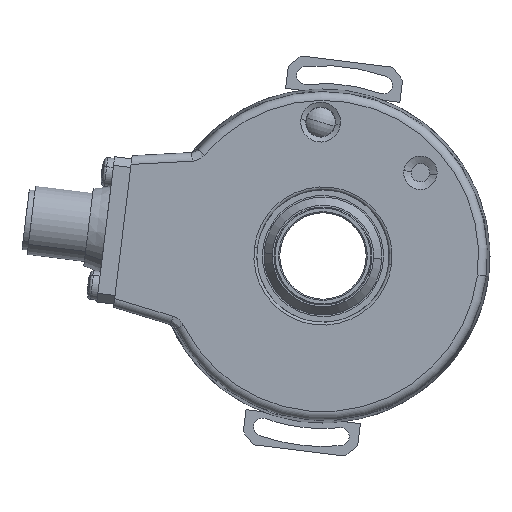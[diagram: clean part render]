
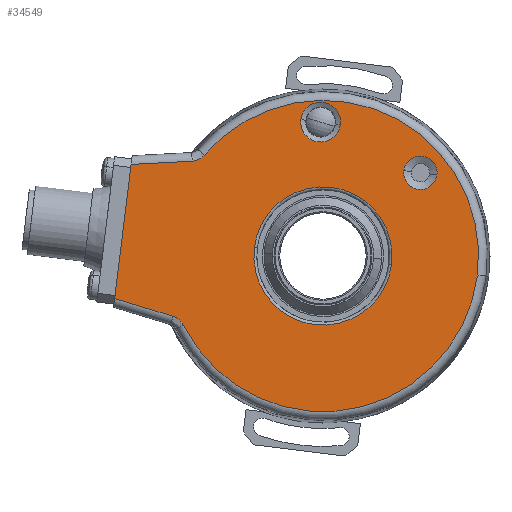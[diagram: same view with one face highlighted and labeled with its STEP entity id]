
A CAD part, left-side view. The second image highlights one B-rep face of the part: STEP entity #34549.
In plain terms, the highlighted planar face has unit normal (-1, 0, 0).
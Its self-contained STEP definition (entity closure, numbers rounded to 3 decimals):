
#198 = EDGE_CURVE ( 'NONE', #18186, #18187, #10828, .T. ) ;
#235 = EDGE_CURVE ( 'NONE', #18182, #18183, #10876, .T. ) ;
#280 = EDGE_CURVE ( 'NONE', #2330, #2331, #10946, .T. ) ;
#301 = EDGE_CURVE ( 'NONE', #2318, #2320, #10978, .T. ) ;
#1222 = CARTESIAN_POINT ( 'NONE',  ( -30.5, 36.168, -7.374 ) ) ;
#1225 = CARTESIAN_POINT ( 'NONE',  ( -30.5, 33.31, 15.905 ) ) ;
#1236 = CARTESIAN_POINT ( 'NONE',  ( -30.5, -11.911, -1.462 ) ) ;
#1238 = CARTESIAN_POINT ( 'NONE',  ( -30.5, 11.911, 1.462 ) ) ;
#1245 = CARTESIAN_POINT ( 'NONE',  ( -30.5, 20.579, 17.512 ) ) ;
#1247 = CARTESIAN_POINT ( 'NONE',  ( -30.5, -26.821, -3.293 ) ) ;
#1380 = CARTESIAN_POINT ( 'NONE',  ( -30.5, 24.205, -12.014 ) ) ;
#1384 = CARTESIAN_POINT ( 'NONE',  ( -30.5, 26.015, -10.478 ) ) ;
#1388 = CARTESIAN_POINT ( 'NONE',  ( -30.5, 22.708, 16.461 ) ) ;
#1922 = DIRECTION ( 'NONE',  ( 0., -0.993, -0.122 ) ) ;
#1923 = DIRECTION ( 'NONE',  ( -1., 0., 0. ) ) ;
#1925 = CARTESIAN_POINT ( 'NONE',  ( -30.5, 0., 0. ) ) ;
#1978 = CARTESIAN_POINT ( 'NONE',  ( -30.5, 0., 0. ) ) ;
#1979 = DIRECTION ( 'NONE',  ( 1., 0., 0. ) ) ;
#1980 = DIRECTION ( 'NONE',  ( 0., -0.993, -0.122 ) ) ;
#2315 = ORIENTED_EDGE ( 'NONE', *, *, #301, .T. ) ;
#2318 = VERTEX_POINT ( 'NONE', #1247 ) ;
#2320 = VERTEX_POINT ( 'NONE', #1245 ) ;
#2330 = VERTEX_POINT ( 'NONE', #1236 ) ;
#2331 = VERTEX_POINT ( 'NONE', #1238 ) ;
#2353 = VERTEX_POINT ( 'NONE', #1380 ) ;
#2363 = VERTEX_POINT ( 'NONE', #1388 ) ;
#2371 = VERTEX_POINT ( 'NONE', #1222 ) ;
#2372 = VERTEX_POINT ( 'NONE', #1225 ) ;
#2374 = VERTEX_POINT ( 'NONE', #1384 ) ;
#5428 = B_SPLINE_CURVE_WITH_KNOTS ( 'NONE', 3,
 ( #31787, #31796, #31803, #31804, #31805, #31806, #31807, #31808, #31809, #31810 ),
 .UNSPECIFIED., .F., .F.,
 ( 4, 2, 2, 2, 4 ),
 ( 0., 0.001, 0.001, 0.002, 0.002 ),
 .UNSPECIFIED. ) ;
#5430 = B_SPLINE_CURVE_WITH_KNOTS ( 'NONE', 3,
 ( #31828, #31829, #31837, #31838, #31839, #31840, #31841, #31842, #31843, #31844 ),
 .UNSPECIFIED., .F., .F.,
 ( 4, 2, 2, 2, 4 ),
 ( 0., 0.001, 0.001, 0.002, 0.002 ),
 .UNSPECIFIED. ) ;
#5897 = CIRCLE ( 'NONE', #25609, 2.899 ) ;
#6264 = LINE ( 'NONE', #31678, #6266 ) ;
#6266 = VECTOR ( 'NONE', #31679, 1000. ) ;
#6304 = CIRCLE ( 'NONE', #25778, 3.466 ) ;
#6310 = LINE ( 'NONE', #31815, #6314 ) ;
#6313 = CIRCLE ( 'NONE', #25782, 12. ) ;
#6314 = VECTOR ( 'NONE', #31816, 1000. ) ;
#6315 = LINE ( 'NONE', #31812, #6317 ) ;
#6317 = VECTOR ( 'NONE', #31811, 1000. ) ;
#6319 = CIRCLE ( 'NONE', #25785, 27.022 ) ;
#6617 = FACE_BOUND ( 'NONE', #21229, .T. ) ;
#6620 = FACE_OUTER_BOUND ( 'NONE', #21232, .T. ) ;
#6621 = FACE_BOUND ( 'NONE', #21230, .T. ) ;
#6623 = FACE_BOUND ( 'NONE', #21228, .T. ) ;
#10828 = CIRCLE ( 'NONE', #28459, 3.466 ) ;
#10876 = CIRCLE ( 'NONE', #28483, 2.899 ) ;
#10946 = CIRCLE ( 'NONE', #28501, 12. ) ;
#10978 = CIRCLE ( 'NONE', #28511, 27.022 ) ;
#13576 = ORIENTED_EDGE ( 'NONE', *, *, #28301, .T. ) ;
#13600 = ORIENTED_EDGE ( 'NONE', *, *, #280, .T. ) ;
#13604 = ORIENTED_EDGE ( 'NONE', *, *, #28311, .T. ) ;
#13616 = ORIENTED_EDGE ( 'NONE', *, *, #28318, .F. ) ;
#13624 = ORIENTED_EDGE ( 'NONE', *, *, #28269, .T. ) ;
#13629 = ORIENTED_EDGE ( 'NONE', *, *, #28315, .T. ) ;
#13635 = ORIENTED_EDGE ( 'NONE', *, *, #235, .T. ) ;
#13642 = ORIENTED_EDGE ( 'NONE', *, *, #27947, .T. ) ;
#13693 = ORIENTED_EDGE ( 'NONE', *, *, #28308, .F. ) ;
#13704 = ORIENTED_EDGE ( 'NONE', *, *, #198, .T. ) ;
#13708 = ORIENTED_EDGE ( 'NONE', *, *, #28310, .F. ) ;
#13721 = ORIENTED_EDGE ( 'NONE', *, *, #28312, .T. ) ;
#13960 = DIRECTION ( 'NONE',  ( 0., -0.993, -0.122 ) ) ;
#13962 = DIRECTION ( 'NONE',  ( 1., 0., 0. ) ) ;
#13964 = CARTESIAN_POINT ( 'NONE',  ( -30.5, -16.919, 14.45 ) ) ;
#14007 = DIRECTION ( 'NONE',  ( 0., -0.993, -0.122 ) ) ;
#14008 = DIRECTION ( 'NONE',  ( 1., 0., 0. ) ) ;
#14300 = CARTESIAN_POINT ( 'NONE',  ( -30.5, 0.406, 23.246 ) ) ;
#18182 = VERTEX_POINT ( 'NONE', #20317 ) ;
#18183 = VERTEX_POINT ( 'NONE', #20318 ) ;
#18186 = VERTEX_POINT ( 'NONE', #20321 ) ;
#18187 = VERTEX_POINT ( 'NONE', #20322 ) ;
#20317 = CARTESIAN_POINT ( 'NONE',  ( -30.5, -14.042, 14.804 ) ) ;
#20318 = CARTESIAN_POINT ( 'NONE',  ( -30.5, -19.796, 14.097 ) ) ;
#20321 = CARTESIAN_POINT ( 'NONE',  ( -30.5, 3.846, 23.669 ) ) ;
#20322 = CARTESIAN_POINT ( 'NONE',  ( -30.5, -3.034, 22.824 ) ) ;
#21228 = EDGE_LOOP ( 'NONE', ( #13704, #13576 ) ) ;
#21229 = EDGE_LOOP ( 'NONE', ( #13635, #13642 ) ) ;
#21230 = EDGE_LOOP ( 'NONE', ( #13600, #13604 ) ) ;
#21232 = EDGE_LOOP ( 'NONE', ( #13616, #13624, #13708, #13721, #13693, #13629, #2315 ) ) ;
#25609 = AXIS2_PLACEMENT_3D ( 'NONE', #29879, #29880, #29881 ) ;
#25778 = AXIS2_PLACEMENT_3D ( 'NONE', #31779, #31780, #31781 ) ;
#25782 = AXIS2_PLACEMENT_3D ( 'NONE', #31817, #31818, #31819 ) ;
#25785 = AXIS2_PLACEMENT_3D ( 'NONE', #31830, #31831, #31832 ) ;
#25939 = AXIS2_PLACEMENT_3D ( 'NONE', #32817, #32814, #32820 ) ;
#27947 = EDGE_CURVE ( 'NONE', #18183, #18182, #5897, .T. ) ;
#28269 = EDGE_CURVE ( 'NONE', #2363, #2372, #6264, .T. ) ;
#28301 = EDGE_CURVE ( 'NONE', #18187, #18186, #6304, .T. ) ;
#28308 = EDGE_CURVE ( 'NONE', #2353, #2374, #5428, .T. ) ;
#28310 = EDGE_CURVE ( 'NONE', #2371, #2372, #6310, .T. ) ;
#28311 = EDGE_CURVE ( 'NONE', #2331, #2330, #6313, .T. ) ;
#28312 = EDGE_CURVE ( 'NONE', #2371, #2374, #6315, .T. ) ;
#28315 = EDGE_CURVE ( 'NONE', #2353, #2318, #6319, .T. ) ;
#28318 = EDGE_CURVE ( 'NONE', #2363, #2320, #5430, .T. ) ;
#28459 = AXIS2_PLACEMENT_3D ( 'NONE', #14300, #14008, #14007 ) ;
#28483 = AXIS2_PLACEMENT_3D ( 'NONE', #13964, #13962, #13960 ) ;
#28501 = AXIS2_PLACEMENT_3D ( 'NONE', #1978, #1979, #1980 ) ;
#28511 = AXIS2_PLACEMENT_3D ( 'NONE', #1925, #1923, #1922 ) ;
#29879 = CARTESIAN_POINT ( 'NONE',  ( -30.5, -16.919, 14.45 ) ) ;
#29880 = DIRECTION ( 'NONE',  ( 1., 0., 0. ) ) ;
#29881 = DIRECTION ( 'NONE',  ( 0., -0.993, -0.122 ) ) ;
#31678 = CARTESIAN_POINT ( 'NONE',  ( -30.5, 33.046, 15.919 ) ) ;
#31679 = DIRECTION ( 'NONE',  ( 0., 0.999, -0.052 ) ) ;
#31779 = CARTESIAN_POINT ( 'NONE',  ( -30.5, 0.406, 23.246 ) ) ;
#31780 = DIRECTION ( 'NONE',  ( 1., 0., 0. ) ) ;
#31781 = DIRECTION ( 'NONE',  ( 0., -0.993, -0.122 ) ) ;
#31787 = CARTESIAN_POINT ( 'NONE',  ( -30.5, 24.205, -12.014 ) ) ;
#31796 = CARTESIAN_POINT ( 'NONE',  ( -30.5, 24.296, -11.83 ) ) ;
#31803 = CARTESIAN_POINT ( 'NONE',  ( -30.5, 24.406, -11.656 ) ) ;
#31804 = CARTESIAN_POINT ( 'NONE',  ( -30.5, 24.657, -11.336 ) ) ;
#31805 = CARTESIAN_POINT ( 'NONE',  ( -30.5, 24.797, -11.19 ) ) ;
#31806 = CARTESIAN_POINT ( 'NONE',  ( -30.5, 25.107, -10.927 ) ) ;
#31807 = CARTESIAN_POINT ( 'NONE',  ( -30.5, 25.277, -10.811 ) ) ;
#31808 = CARTESIAN_POINT ( 'NONE',  ( -30.5, 25.632, -10.617 ) ) ;
#31809 = CARTESIAN_POINT ( 'NONE',  ( -30.5, 25.819, -10.538 ) ) ;
#31810 = CARTESIAN_POINT ( 'NONE',  ( -30.5, 26.015, -10.478 ) ) ;
#31811 = DIRECTION ( 'NONE',  ( 0., -0.956, -0.292 ) ) ;
#31812 = CARTESIAN_POINT ( 'NONE',  ( -30.5, 25.362, -10.678 ) ) ;
#31815 = CARTESIAN_POINT ( 'NONE',  ( -30.5, 36.354, -8.886 ) ) ;
#31816 = DIRECTION ( 'NONE',  ( 0., -0.122, 0.993 ) ) ;
#31817 = CARTESIAN_POINT ( 'NONE',  ( -30.5, 0., 0. ) ) ;
#31818 = DIRECTION ( 'NONE',  ( 1., 0., 0. ) ) ;
#31819 = DIRECTION ( 'NONE',  ( 0., -0.993, -0.122 ) ) ;
#31828 = CARTESIAN_POINT ( 'NONE',  ( -30.5, 22.708, 16.461 ) ) ;
#31829 = CARTESIAN_POINT ( 'NONE',  ( -30.5, 22.503, 16.471 ) ) ;
#31830 = CARTESIAN_POINT ( 'NONE',  ( -30.5, 0., 0. ) ) ;
#31831 = DIRECTION ( 'NONE',  ( -1., 0., 0. ) ) ;
#31832 = DIRECTION ( 'NONE',  ( 0., -0.993, -0.122 ) ) ;
#31837 = CARTESIAN_POINT ( 'NONE',  ( -30.5, 22.299, 16.503 ) ) ;
#31838 = CARTESIAN_POINT ( 'NONE',  ( -30.5, 21.906, 16.606 ) ) ;
#31839 = CARTESIAN_POINT ( 'NONE',  ( -30.5, 21.716, 16.677 ) ) ;
#31840 = CARTESIAN_POINT ( 'NONE',  ( -30.5, 21.352, 16.857 ) ) ;
#31841 = CARTESIAN_POINT ( 'NONE',  ( -30.5, 21.178, 16.967 ) ) ;
#31842 = CARTESIAN_POINT ( 'NONE',  ( -30.5, 20.859, 17.216 ) ) ;
#31843 = CARTESIAN_POINT ( 'NONE',  ( -30.5, 20.712, 17.356 ) ) ;
#31844 = CARTESIAN_POINT ( 'NONE',  ( -30.5, 20.579, 17.512 ) ) ;
#32814 = DIRECTION ( 'NONE',  ( 1., 0., 0. ) ) ;
#32817 = CARTESIAN_POINT ( 'NONE',  ( -30.5, 0., 0. ) ) ;
#32819 = PLANE ( 'NONE',  #25939 ) ;
#32820 = DIRECTION ( 'NONE',  ( 0., -0.993, -0.122 ) ) ;
#34549 = ADVANCED_FACE ( 'NONE', ( #6617, #6623, #6621, #6620 ), #32819, .F. ) ;
